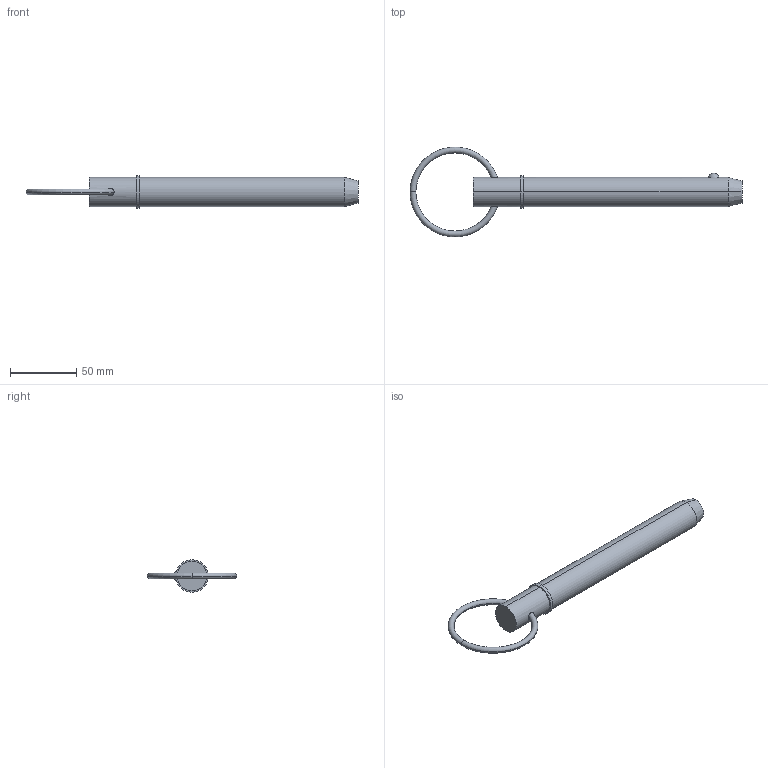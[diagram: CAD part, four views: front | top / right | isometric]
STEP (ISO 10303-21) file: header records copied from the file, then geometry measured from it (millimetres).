
FILE_DESCRIPTION (( 'STEP AP203' ), '1' );
FILE_NAME ('33014.W8855.step', '2024-11-04T08:38:09', ( '' ), ( '' ), 'SwSTEP 2.0', 'SolidWorks 2019', '' );
FILE_SCHEMA (( 'CONFIG_CONTROL_DESIGN' ));
Length unit declared in the file: millimetre
Products named in the file (3): 33014.W8855; Part2_33014.W8855; Part1_33014.W8855
Assembly tree (2 placements, depth 2):
  33014.W8855
    Part1_33014.W8855
    Part2_33014.W8855
Bounding box: 250.81 x 67.95 x 24.45 mm (x, y, z)
Volume: 80779.6 mm3; surface area: 18069.2 mm2
Topology: 2 solids, 2 shells, 22 faces, 43 edges, 26 vertices
Faces by surface type: torus 8, cylinder 6, plane 4, sphere 2, cone 2
Entity records: 1065 total; most frequent: CARTESIAN_POINT 288, DIRECTION 120, ORIENTED_EDGE 86, AXIS2_PLACEMENT_3D 56, EDGE_CURVE 43, CIRCLE 29, EDGE_LOOP 27, PERSON_AND_ORGANIZATION 26
